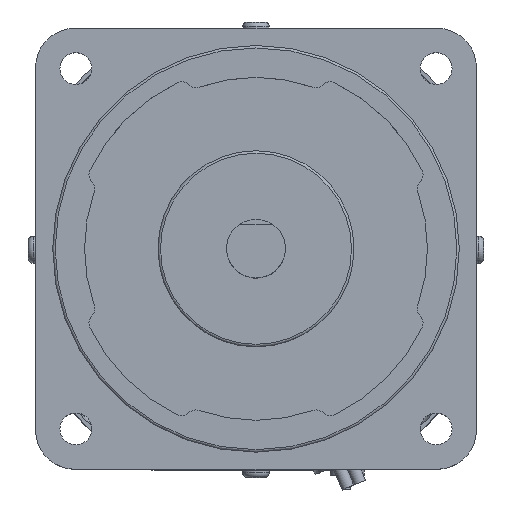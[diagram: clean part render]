
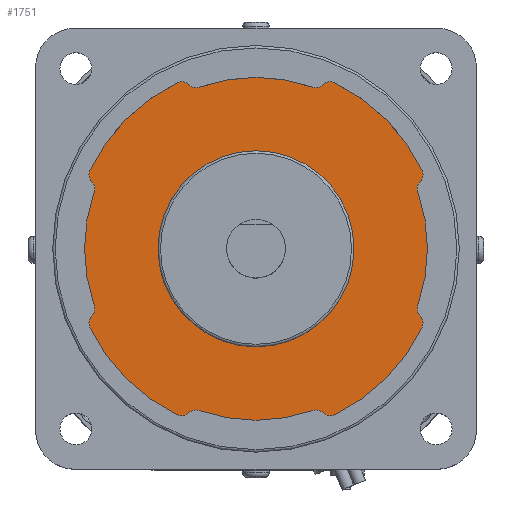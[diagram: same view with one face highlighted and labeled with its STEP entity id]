
A CAD part, top view. The second image highlights one B-rep face of the part: STEP entity #1751.
In plain terms, the highlighted planar face has unit normal (0, 0, 1).
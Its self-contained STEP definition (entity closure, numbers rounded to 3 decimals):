
#1510=CARTESIAN_POINT('',(20.0,0.,156.0));
#1511=VERTEX_POINT('',#1510);
#1512=CARTESIAN_POINT('',(0.,0.,156.0));
#1513=DIRECTION('',(0.0,0.0,-1.0));
#1514=DIRECTION('',(-1.0,0.0,0.0));
#1515=AXIS2_PLACEMENT_3D('',#1512,#1513,#1514);
#1516=CIRCLE('',#1515,20.0);
#1517=EDGE_CURVE('',#1511,#1511,#1516,.T.);
#1525=CARTESIAN_POINT('',(0.,0.,156.0));
#1526=DIRECTION('',(0.0,0.0,1.0));
#1527=DIRECTION('',(1.0,0.0,0.0));
#1528=AXIS2_PLACEMENT_3D('',#1525,#1526,#1527);
#1529=PLANE('',#1528);
#1530=CARTESIAN_POINT('',(-16.006,-33.913,156.0));
#1531=VERTEX_POINT('',#1530);
#1532=CARTESIAN_POINT('',(-13.722,-33.501,156.0));
#1533=VERTEX_POINT('',#1532);
#1534=CARTESIAN_POINT('',(-15.152,-32.104,156.0));
#1535=DIRECTION('',(0.0,0.0,1.0));
#1536=DIRECTION('',(0.427,0.904,0.0));
#1537=AXIS2_PLACEMENT_3D('',#1534,#1535,#1536);
#1538=CIRCLE('',#1537,2.);
#1539=EDGE_CURVE('',#1531,#1533,#1538,.T.);
#1540=ORIENTED_EDGE('',*,*,#1539,.T.);
#1541=CARTESIAN_POINT('',(-11.626,-33.013,156.0));
#1542=VERTEX_POINT('',#1541);
#1543=CARTESIAN_POINT('',(-12.291,-34.899,156.0));
#1544=DIRECTION('',(0.0,0.0,-1.0));
#1545=DIRECTION('',(-0.408,0.913,0.0));
#1546=AXIS2_PLACEMENT_3D('',#1543,#1544,#1545);
#1547=CIRCLE('',#1546,2.0);
#1548=EDGE_CURVE('',#1542,#1533,#1547,.F.);
#1549=ORIENTED_EDGE('',*,*,#1548,.F.);
#1550=CARTESIAN_POINT('',(11.626,-33.013,156.0));
#1551=VERTEX_POINT('',#1550);
#1552=CARTESIAN_POINT('',(0.,0.,156.));
#1553=DIRECTION('',(0.,0.,1.0));
#1554=DIRECTION('',(-0.383,-0.924,0.));
#1555=AXIS2_PLACEMENT_3D('',#1552,#1553,#1554);
#1556=CIRCLE('',#1555,35.0);
#1557=EDGE_CURVE('',#1542,#1551,#1556,.T.);
#1558=ORIENTED_EDGE('',*,*,#1557,.T.);
#1559=CARTESIAN_POINT('',(13.722,-33.501,156.0));
#1560=VERTEX_POINT('',#1559);
#1561=CARTESIAN_POINT('',(12.291,-34.899,156.0));
#1562=DIRECTION('',(0.0,0.0,-1.0));
#1563=DIRECTION('',(0.408,0.913,0.0));
#1564=AXIS2_PLACEMENT_3D('',#1561,#1562,#1563);
#1565=CIRCLE('',#1564,2.0);
#1566=EDGE_CURVE('',#1560,#1551,#1565,.F.);
#1567=ORIENTED_EDGE('',*,*,#1566,.F.);
#1568=CARTESIAN_POINT('',(16.006,-33.913,156.0));
#1569=VERTEX_POINT('',#1568);
#1570=CARTESIAN_POINT('',(15.152,-32.104,156.0));
#1571=DIRECTION('',(0.0,0.0,1.0));
#1572=DIRECTION('',(0.715,0.699,0.0));
#1573=AXIS2_PLACEMENT_3D('',#1570,#1571,#1572);
#1574=CIRCLE('',#1573,2.);
#1575=EDGE_CURVE('',#1560,#1569,#1574,.T.);
#1576=ORIENTED_EDGE('',*,*,#1575,.T.);
#1577=CARTESIAN_POINT('',(33.913,-16.006,156.0));
#1578=VERTEX_POINT('',#1577);
#1579=CARTESIAN_POINT('',(0.,0.,156.));
#1580=DIRECTION('',(0.,0.,1.0));
#1581=DIRECTION('',(0.383,-0.924,0.));
#1582=AXIS2_PLACEMENT_3D('',#1579,#1580,#1581);
#1583=CIRCLE('',#1582,37.5);
#1584=EDGE_CURVE('',#1569,#1578,#1583,.T.);
#1585=ORIENTED_EDGE('',*,*,#1584,.T.);
#1586=CARTESIAN_POINT('',(33.501,-13.722,156.0));
#1587=VERTEX_POINT('',#1586);
#1588=CARTESIAN_POINT('',(32.104,-15.152,156.0));
#1589=DIRECTION('',(0.0,0.0,1.0));
#1590=DIRECTION('',(-0.904,0.427,0.0));
#1591=AXIS2_PLACEMENT_3D('',#1588,#1589,#1590);
#1592=CIRCLE('',#1591,2.);
#1593=EDGE_CURVE('',#1578,#1587,#1592,.T.);
#1594=ORIENTED_EDGE('',*,*,#1593,.T.);
#1595=CARTESIAN_POINT('',(33.013,-11.626,156.0));
#1596=VERTEX_POINT('',#1595);
#1597=CARTESIAN_POINT('',(34.899,-12.291,156.0));
#1598=DIRECTION('',(0.0,0.0,-1.0));
#1599=DIRECTION('',(-0.913,-0.408,0.0));
#1600=AXIS2_PLACEMENT_3D('',#1597,#1598,#1599);
#1601=CIRCLE('',#1600,2.0);
#1602=EDGE_CURVE('',#1596,#1587,#1601,.F.);
#1603=ORIENTED_EDGE('',*,*,#1602,.F.);
#1604=CARTESIAN_POINT('',(33.013,11.626,156.0));
#1605=VERTEX_POINT('',#1604);
#1606=CARTESIAN_POINT('',(0.,0.,156.));
#1607=DIRECTION('',(0.,0.,1.0));
#1608=DIRECTION('',(0.924,-0.383,0.));
#1609=AXIS2_PLACEMENT_3D('',#1606,#1607,#1608);
#1610=CIRCLE('',#1609,35.);
#1611=EDGE_CURVE('',#1596,#1605,#1610,.T.);
#1612=ORIENTED_EDGE('',*,*,#1611,.T.);
#1613=CARTESIAN_POINT('',(33.501,13.722,156.0));
#1614=VERTEX_POINT('',#1613);
#1615=CARTESIAN_POINT('',(34.899,12.291,156.0));
#1616=DIRECTION('',(0.0,0.0,-1.0));
#1617=DIRECTION('',(-0.913,0.408,0.0));
#1618=AXIS2_PLACEMENT_3D('',#1615,#1616,#1617);
#1619=CIRCLE('',#1618,2.0);
#1620=EDGE_CURVE('',#1614,#1605,#1619,.F.);
#1621=ORIENTED_EDGE('',*,*,#1620,.F.);
#1622=CARTESIAN_POINT('',(33.913,16.006,156.0));
#1623=VERTEX_POINT('',#1622);
#1624=CARTESIAN_POINT('',(32.104,15.152,156.0));
#1625=DIRECTION('',(0.0,0.0,1.0));
#1626=DIRECTION('',(-0.699,0.715,0.0));
#1627=AXIS2_PLACEMENT_3D('',#1624,#1625,#1626);
#1628=CIRCLE('',#1627,2.);
#1629=EDGE_CURVE('',#1614,#1623,#1628,.T.);
#1630=ORIENTED_EDGE('',*,*,#1629,.T.);
#1631=CARTESIAN_POINT('',(16.006,33.913,156.0));
#1632=VERTEX_POINT('',#1631);
#1633=CARTESIAN_POINT('',(0.,0.,156.));
#1634=DIRECTION('',(0.,0.,1.0));
#1635=DIRECTION('',(0.924,0.383,0.));
#1636=AXIS2_PLACEMENT_3D('',#1633,#1634,#1635);
#1637=CIRCLE('',#1636,37.5);
#1638=EDGE_CURVE('',#1623,#1632,#1637,.T.);
#1639=ORIENTED_EDGE('',*,*,#1638,.T.);
#1640=CARTESIAN_POINT('',(13.722,33.501,156.0));
#1641=VERTEX_POINT('',#1640);
#1642=CARTESIAN_POINT('',(15.152,32.104,156.0));
#1643=DIRECTION('',(0.0,0.0,1.0));
#1644=DIRECTION('',(-0.427,-0.904,0.0));
#1645=AXIS2_PLACEMENT_3D('',#1642,#1643,#1644);
#1646=CIRCLE('',#1645,2.);
#1647=EDGE_CURVE('',#1632,#1641,#1646,.T.);
#1648=ORIENTED_EDGE('',*,*,#1647,.T.);
#1649=CARTESIAN_POINT('',(11.626,33.013,156.0));
#1650=VERTEX_POINT('',#1649);
#1651=CARTESIAN_POINT('',(12.291,34.899,156.0));
#1652=DIRECTION('',(0.0,0.0,-1.0));
#1653=DIRECTION('',(0.408,-0.913,0.0));
#1654=AXIS2_PLACEMENT_3D('',#1651,#1652,#1653);
#1655=CIRCLE('',#1654,2.0);
#1656=EDGE_CURVE('',#1650,#1641,#1655,.F.);
#1657=ORIENTED_EDGE('',*,*,#1656,.F.);
#1658=CARTESIAN_POINT('',(-11.626,33.013,156.0));
#1659=VERTEX_POINT('',#1658);
#1660=CARTESIAN_POINT('',(0.,0.,156.));
#1661=DIRECTION('',(0.,0.,1.0));
#1662=DIRECTION('',(0.383,0.924,0.));
#1663=AXIS2_PLACEMENT_3D('',#1660,#1661,#1662);
#1664=CIRCLE('',#1663,35.0);
#1665=EDGE_CURVE('',#1650,#1659,#1664,.T.);
#1666=ORIENTED_EDGE('',*,*,#1665,.T.);
#1667=CARTESIAN_POINT('',(-13.722,33.501,156.0));
#1668=VERTEX_POINT('',#1667);
#1669=CARTESIAN_POINT('',(-12.291,34.899,156.0));
#1670=DIRECTION('',(0.0,0.0,-1.0));
#1671=DIRECTION('',(-0.408,-0.913,0.0));
#1672=AXIS2_PLACEMENT_3D('',#1669,#1670,#1671);
#1673=CIRCLE('',#1672,2.0);
#1674=EDGE_CURVE('',#1668,#1659,#1673,.F.);
#1675=ORIENTED_EDGE('',*,*,#1674,.F.);
#1676=CARTESIAN_POINT('',(-16.006,33.913,156.0));
#1677=VERTEX_POINT('',#1676);
#1678=CARTESIAN_POINT('',(-15.152,32.104,156.0));
#1679=DIRECTION('',(0.0,0.0,1.0));
#1680=DIRECTION('',(-0.715,-0.699,0.0));
#1681=AXIS2_PLACEMENT_3D('',#1678,#1679,#1680);
#1682=CIRCLE('',#1681,2.);
#1683=EDGE_CURVE('',#1668,#1677,#1682,.T.);
#1684=ORIENTED_EDGE('',*,*,#1683,.T.);
#1685=CARTESIAN_POINT('',(-33.913,16.006,156.0));
#1686=VERTEX_POINT('',#1685);
#1687=CARTESIAN_POINT('',(0.,0.,156.));
#1688=DIRECTION('',(0.,0.,1.0));
#1689=DIRECTION('',(-0.383,0.924,0.));
#1690=AXIS2_PLACEMENT_3D('',#1687,#1688,#1689);
#1691=CIRCLE('',#1690,37.5);
#1692=EDGE_CURVE('',#1677,#1686,#1691,.T.);
#1693=ORIENTED_EDGE('',*,*,#1692,.T.);
#1694=CARTESIAN_POINT('',(-33.501,13.722,156.0));
#1695=VERTEX_POINT('',#1694);
#1696=CARTESIAN_POINT('',(-32.104,15.152,156.0));
#1697=DIRECTION('',(0.0,0.0,1.0));
#1698=DIRECTION('',(0.904,-0.427,0.0));
#1699=AXIS2_PLACEMENT_3D('',#1696,#1697,#1698);
#1700=CIRCLE('',#1699,2.);
#1701=EDGE_CURVE('',#1686,#1695,#1700,.T.);
#1702=ORIENTED_EDGE('',*,*,#1701,.T.);
#1703=CARTESIAN_POINT('',(-33.013,11.626,156.0));
#1704=VERTEX_POINT('',#1703);
#1705=CARTESIAN_POINT('',(-34.899,12.291,156.0));
#1706=DIRECTION('',(0.0,0.0,-1.0));
#1707=DIRECTION('',(0.913,0.408,0.0));
#1708=AXIS2_PLACEMENT_3D('',#1705,#1706,#1707);
#1709=CIRCLE('',#1708,2.0);
#1710=EDGE_CURVE('',#1704,#1695,#1709,.F.);
#1711=ORIENTED_EDGE('',*,*,#1710,.F.);
#1712=CARTESIAN_POINT('',(-33.013,-11.626,156.0));
#1713=VERTEX_POINT('',#1712);
#1714=CARTESIAN_POINT('',(0.,0.,156.));
#1715=DIRECTION('',(0.,0.,1.0));
#1716=DIRECTION('',(-0.924,0.383,0.));
#1717=AXIS2_PLACEMENT_3D('',#1714,#1715,#1716);
#1718=CIRCLE('',#1717,35.0);
#1719=EDGE_CURVE('',#1704,#1713,#1718,.T.);
#1720=ORIENTED_EDGE('',*,*,#1719,.T.);
#1721=CARTESIAN_POINT('',(-33.501,-13.722,156.0));
#1722=VERTEX_POINT('',#1721);
#1723=CARTESIAN_POINT('',(-34.899,-12.291,156.0));
#1724=DIRECTION('',(0.0,0.0,-1.0));
#1725=DIRECTION('',(0.913,-0.408,0.0));
#1726=AXIS2_PLACEMENT_3D('',#1723,#1724,#1725);
#1727=CIRCLE('',#1726,2.0);
#1728=EDGE_CURVE('',#1722,#1713,#1727,.F.);
#1729=ORIENTED_EDGE('',*,*,#1728,.F.);
#1730=CARTESIAN_POINT('',(-33.913,-16.006,156.0));
#1731=VERTEX_POINT('',#1730);
#1732=CARTESIAN_POINT('',(-32.104,-15.152,156.0));
#1733=DIRECTION('',(0.0,0.0,1.0));
#1734=DIRECTION('',(0.699,-0.715,0.0));
#1735=AXIS2_PLACEMENT_3D('',#1732,#1733,#1734);
#1736=CIRCLE('',#1735,2.);
#1737=EDGE_CURVE('',#1722,#1731,#1736,.T.);
#1738=ORIENTED_EDGE('',*,*,#1737,.T.);
#1739=CARTESIAN_POINT('',(0.,0.,156.));
#1740=DIRECTION('',(0.,0.,1.0));
#1741=DIRECTION('',(-0.924,-0.383,0.));
#1742=AXIS2_PLACEMENT_3D('',#1739,#1740,#1741);
#1743=CIRCLE('',#1742,37.5);
#1744=EDGE_CURVE('',#1731,#1531,#1743,.T.);
#1745=ORIENTED_EDGE('',*,*,#1744,.T.);
#1746=EDGE_LOOP('',(#1540,#1549,#1558,#1567,#1576,#1585,#1594,#1603,#1612,#1621,#1630,#1639,#1648,#1657,#1666,#1675,#1684,#1693,#1702,#1711,#1720,#1729,#1738,#1745));
#1747=FACE_OUTER_BOUND('',#1746,.T.);
#1748=ORIENTED_EDGE('',*,*,#1517,.T.);
#1749=EDGE_LOOP('',(#1748));
#1750=FACE_BOUND('',#1749,.T.);
#1751=ADVANCED_FACE('',(#1747,#1750),#1529,.T.);
